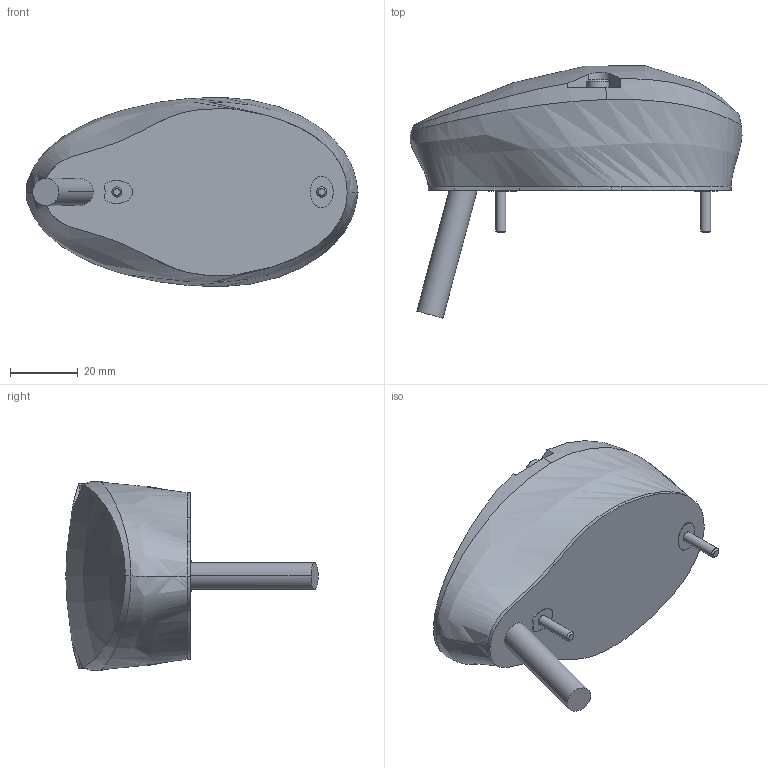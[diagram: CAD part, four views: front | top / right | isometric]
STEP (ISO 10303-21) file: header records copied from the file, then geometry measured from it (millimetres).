
FILE_DESCRIPTION(('Creo Elements/Direct Modeling STEP Export'),'2;1');
FILE_NAME('C:/Users/pe/Dropbox/extern/CG/Til-Edslev/3D-Modeller_Tove/TilTove//PD98CNT.stp','2017-05-29T 8:24:38',('Palle Edslev pe@edslev.dk'),('EDSLEV A/S'),'Creo Elements/Direct Modeling STEP processor for AP214 (Solid Model)','Creo Elements/Direct Modeling 18.1H 24-Oct-2015 (C) Parametric Technology GmbH','');
FILE_SCHEMA(('AUTOMOTIVE_DESIGN { 1 0 10303 214 1 1 1 1 }'));
Length unit declared in the file: millimetre
Products named in the file (1): PD98CNT
Bounding box: 98.07 x 74.53 x 55.89 mm (x, y, z)
Volume: 125905.8 mm3; surface area: 15695.2 mm2
Topology: 1 solids, 1 shells, 56 faces, 138 edges, 91 vertices
Faces by surface type: cylinder 15, plane 14, extrusion 12, cone 8, bspline 7
Entity records: 16519 total; most frequent: CARTESIAN_POINT 15314, ORIENTED_EDGE 276, DIRECTION 172, EDGE_CURVE 138, VERTEX_POINT 91, B_SPLINE_CURVE_WITH_KNOTS 65, EDGE_LOOP 63, AXIS2_PLACEMENT_3D 58
